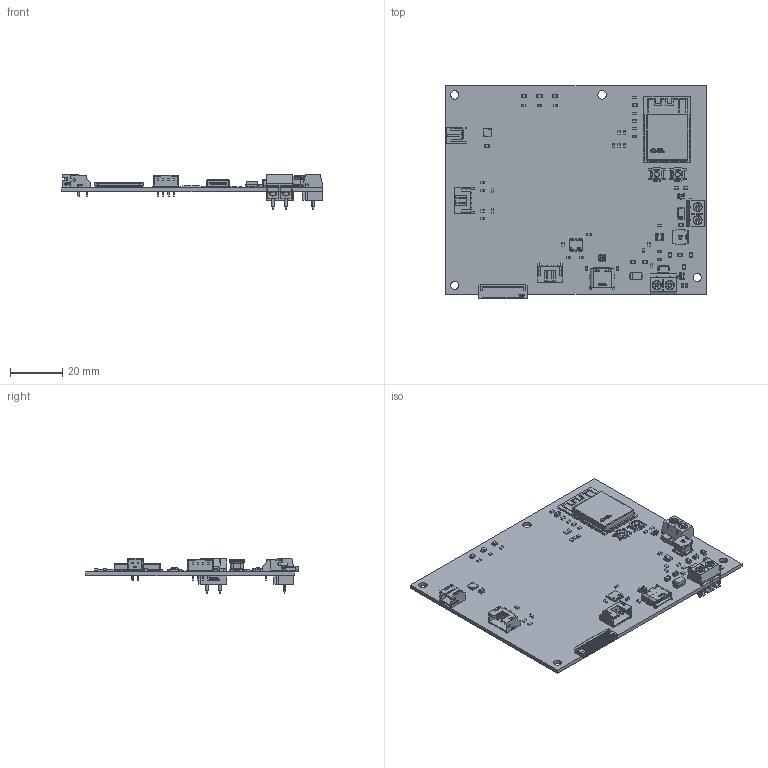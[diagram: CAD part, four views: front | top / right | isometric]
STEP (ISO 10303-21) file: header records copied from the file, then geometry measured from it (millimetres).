
FILE_DESCRIPTION(('KiCad electronic assembly'),'2;1');
FILE_NAME('pairo-main.step','2026-11-16T18:09:46',('Pcbnew'),('Kicad'), 'Open CASCADE STEP processor 7.9','KiCad to STEP converter','Unknown' );
FILE_SCHEMA(('AUTOMOTIVE_DESIGN { 1 0 10303 214 1 1 1 1 }'));
Length unit declared in the file: millimetre
Products named in the file (40): pairo-main 1; IND-SMD_L6.0-W6.0-H4.5; C_0603_1608Metric; R_0603_1608Metric; C_0805_2012Metric; USB-C_SMD-TYPE-C-31-M-12_1; USB-C_SMD-TYPE-C-31-M-12; TQFN-16_L3.0-W3.0-P0.50-BL-EP1.5; SMA_L4.3-W2.6-LS5.2-RD; TSOT-23-8_L2.9-W1.6-P0.65-LS2.8-BR; TSOT-23-8_L2.9-W1.6-H1.1-LS2.8-P0.65; SOT-23-3P_L2.9-W1.3-H1.0-LS2.4-P0.95; LED_0805_2012Metric; FPC-SMD_30P-P0.50_FPC-05FB-30PH20; CONN-TH_P5.00_KF301-5.0-2P; Download_STP_691102710002 (rev1); ESSOP-10_L4.9-W3.9-P1.0-LS6.0-TL-EP; D_SMA; SW-SMD_4P-L5.1-W5.1-P3.70-LS6.5-TL_H1.5; CONN-TH_4P-P2.00_S4B-PH-K-S-LF-SN; WIRELM-SMD_ESP32-S3-WROOM-1; SOT-23-6_L2.9-W1.6-H1.5-LS2.8-P0.95; CONN-TH_HR-PH2.0-WI-2P; Pairo_PCB
Assembly tree (87 placements, depth 3):
  pairo-main 1
    IND-SMD_L6.0-W6.0-H4.5
      IND-SMD_L6.0-W6.0-H4.5
    C_0603_1608Metric  x9
      C_0603_1608Metric
    R_0603_1608Metric  x26
      R_0603_1608Metric
    C_0805_2012Metric  x9
      C_0805_2012Metric
    USB-C_SMD-TYPE-C-31-M-12_1
      USB-C_SMD-TYPE-C-31-M-12
    TQFN-16_L3.0-W3.0-P0.50-BL-EP1.5
      TQFN-16_L3.0-W3.0-P0.50-BL-EP1.5
    SMA_L4.3-W2.6-LS5.2-RD  x2
      SMA_L4.3-W2.6-LS5.2-RD
    TSOT-23-8_L2.9-W1.6-P0.65-LS2.8-BR
      TSOT-23-8_L2.9-W1.6-H1.1-LS2.8-P0.65
    SOT-23-3P_L2.9-W1.3-H1.0-LS2.4-P0.95  x2
      SOT-23-3P_L2.9-W1.3-H1.0-LS2.4-P0.95
    LED_0805_2012Metric  x3
      LED_0805_2012Metric
    FPC-SMD_30P-P0.50_FPC-05FB-30PH20
      FPC-SMD_30P-P0.50_FPC-05FB-30PH20
    CONN-TH_P5.00_KF301-5.0-2P  x2
      Download_STP_691102710002 (rev1)
    ESSOP-10_L4.9-W3.9-P1.0-LS6.0-TL-EP
      ESSOP-10_L4.9-W3.9-P1.0-LS6.0-TL-EP
    D_SMA
      D_SMA
    SW-SMD_4P-L5.1-W5.1-P3.70-LS6.5-TL_H1.5  x2
      SW-SMD_4P-L5.1-W5.1-P3.70-LS6.5-TL_H1.5
    CONN-TH_4P-P2.00_S4B-PH-K-S-LF-SN  x2
      CONN-TH_4P-P2.00_S4B-PH-K-S-LF-SN
    WIRELM-SMD_ESP32-S3-WROOM-1
      WIRELM-SMD_ESP32-S3-WROOM-1
    SOT-23-6_L2.9-W1.6-H1.5-LS2.8-P0.95
      SOT-23-6_L2.9-W1.6-H1.5-LS2.8-P0.95
    CONN-TH_HR-PH2.0-WI-2P
      CONN-TH_HR-PH2.0-WI-2P
    Pairo_PCB
Bounding box: 100 x 81.45 x 13.5 mm (x, y, z)
Volume: 14959.5 mm3; surface area: 24068.1 mm2
Topology: 297 solids, 297 shells, 12081 faces, 31295 edges, 20116 vertices
Faces by surface type: plane 7404, bspline 2304, cylinder 1787, torus 348, sphere 176, cone 56, revolution 6
Full cylindrical faces by diameter (mm): 0.6 x2, 0.85 x2, 1 x8, 1.4 x4, 3.2 x4
Entity records: 344553 total; most frequent: CARTESIAN_POINT 84353, ORIENTED_EDGE 44700, DIRECTION 35216, EDGE_CURVE 22350, LINE 15978, VECTOR 15978, VERTEX_POINT 14379, AXIS2_PLACEMENT_3D 9616
